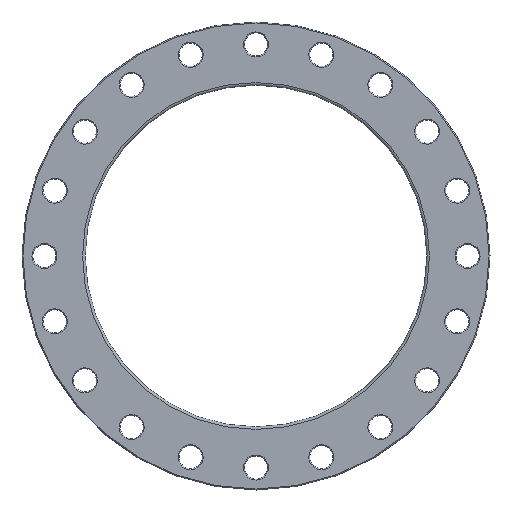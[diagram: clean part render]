
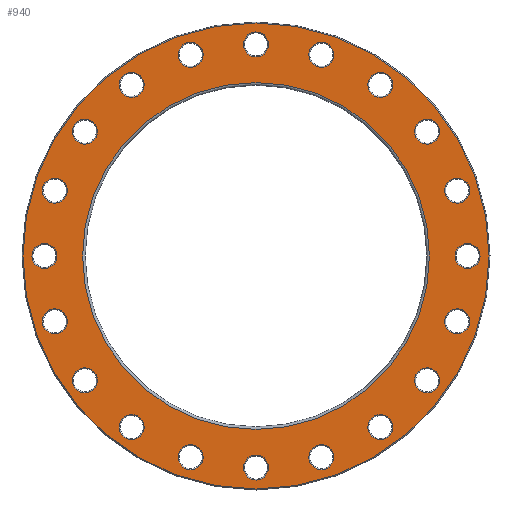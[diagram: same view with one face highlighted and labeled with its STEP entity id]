
A CAD part, front view. The second image highlights one B-rep face of the part: STEP entity #940.
In plain terms, the highlighted planar face has unit normal (0, -1, 0).
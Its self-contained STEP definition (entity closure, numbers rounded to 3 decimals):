
#23=PLANE('',#1104);
#206=ORIENTED_EDGE('',*,*,#325,.T.);
#207=ORIENTED_EDGE('',*,*,#326,.T.);
#208=ORIENTED_EDGE('',*,*,#244,.T.);
#209=ORIENTED_EDGE('',*,*,#248,.T.);
#210=ORIENTED_EDGE('',*,*,#252,.T.);
#211=ORIENTED_EDGE('',*,*,#256,.T.);
#212=ORIENTED_EDGE('',*,*,#260,.T.);
#213=ORIENTED_EDGE('',*,*,#264,.T.);
#214=ORIENTED_EDGE('',*,*,#268,.T.);
#215=ORIENTED_EDGE('',*,*,#272,.T.);
#216=ORIENTED_EDGE('',*,*,#276,.T.);
#217=ORIENTED_EDGE('',*,*,#280,.T.);
#218=ORIENTED_EDGE('',*,*,#284,.T.);
#219=ORIENTED_EDGE('',*,*,#288,.T.);
#220=ORIENTED_EDGE('',*,*,#292,.T.);
#221=ORIENTED_EDGE('',*,*,#296,.T.);
#222=ORIENTED_EDGE('',*,*,#300,.T.);
#223=ORIENTED_EDGE('',*,*,#304,.T.);
#224=ORIENTED_EDGE('',*,*,#308,.T.);
#225=ORIENTED_EDGE('',*,*,#312,.T.);
#226=ORIENTED_EDGE('',*,*,#316,.T.);
#227=ORIENTED_EDGE('',*,*,#327,.T.);
#244=EDGE_CURVE('',#332,#332,#420,.T.);
#248=EDGE_CURVE('',#336,#336,#424,.T.);
#252=EDGE_CURVE('',#340,#340,#428,.T.);
#256=EDGE_CURVE('',#344,#344,#432,.T.);
#260=EDGE_CURVE('',#348,#348,#436,.T.);
#264=EDGE_CURVE('',#352,#352,#440,.T.);
#268=EDGE_CURVE('',#356,#356,#444,.T.);
#272=EDGE_CURVE('',#360,#360,#448,.T.);
#276=EDGE_CURVE('',#364,#364,#452,.T.);
#280=EDGE_CURVE('',#368,#368,#456,.T.);
#284=EDGE_CURVE('',#372,#372,#460,.T.);
#288=EDGE_CURVE('',#376,#376,#464,.T.);
#292=EDGE_CURVE('',#380,#380,#468,.T.);
#296=EDGE_CURVE('',#384,#384,#472,.T.);
#300=EDGE_CURVE('',#388,#388,#476,.T.);
#304=EDGE_CURVE('',#392,#392,#480,.T.);
#308=EDGE_CURVE('',#396,#396,#484,.T.);
#312=EDGE_CURVE('',#400,#400,#488,.T.);
#316=EDGE_CURVE('',#404,#404,#492,.T.);
#325=EDGE_CURVE('',#413,#413,#501,.F.);
#326=EDGE_CURVE('',#414,#414,#502,.T.);
#327=EDGE_CURVE('',#415,#415,#503,.T.);
#332=VERTEX_POINT('',#1439);
#336=VERTEX_POINT('',#1450);
#340=VERTEX_POINT('',#1461);
#344=VERTEX_POINT('',#1472);
#348=VERTEX_POINT('',#1483);
#352=VERTEX_POINT('',#1494);
#356=VERTEX_POINT('',#1505);
#360=VERTEX_POINT('',#1516);
#364=VERTEX_POINT('',#1527);
#368=VERTEX_POINT('',#1538);
#372=VERTEX_POINT('',#1549);
#376=VERTEX_POINT('',#1560);
#380=VERTEX_POINT('',#1571);
#384=VERTEX_POINT('',#1582);
#388=VERTEX_POINT('',#1593);
#392=VERTEX_POINT('',#1604);
#396=VERTEX_POINT('',#1615);
#400=VERTEX_POINT('',#1626);
#404=VERTEX_POINT('',#1637);
#413=VERTEX_POINT('',#1660);
#414=VERTEX_POINT('',#1662);
#415=VERTEX_POINT('',#1664);
#420=CIRCLE('',#965,19.5);
#424=CIRCLE('',#972,19.5);
#428=CIRCLE('',#979,19.5);
#432=CIRCLE('',#986,19.5);
#436=CIRCLE('',#993,19.5);
#440=CIRCLE('',#1000,19.5);
#444=CIRCLE('',#1007,19.5);
#448=CIRCLE('',#1014,19.5);
#452=CIRCLE('',#1021,19.5);
#456=CIRCLE('',#1028,19.5);
#460=CIRCLE('',#1035,19.5);
#464=CIRCLE('',#1042,19.5);
#468=CIRCLE('',#1049,19.5);
#472=CIRCLE('',#1056,19.5);
#476=CIRCLE('',#1063,19.5);
#480=CIRCLE('',#1070,19.5);
#484=CIRCLE('',#1077,19.5);
#488=CIRCLE('',#1084,19.5);
#492=CIRCLE('',#1091,19.5);
#501=CIRCLE('',#1105,363.5);
#502=CIRCLE('',#1106,270.5);
#503=CIRCLE('',#1107,19.5);
#646=EDGE_LOOP('',(#206));
#647=EDGE_LOOP('',(#207));
#648=EDGE_LOOP('',(#208));
#649=EDGE_LOOP('',(#209));
#650=EDGE_LOOP('',(#210));
#651=EDGE_LOOP('',(#211));
#652=EDGE_LOOP('',(#212));
#653=EDGE_LOOP('',(#213));
#654=EDGE_LOOP('',(#214));
#655=EDGE_LOOP('',(#215));
#656=EDGE_LOOP('',(#216));
#657=EDGE_LOOP('',(#217));
#658=EDGE_LOOP('',(#218));
#659=EDGE_LOOP('',(#219));
#660=EDGE_LOOP('',(#220));
#661=EDGE_LOOP('',(#221));
#662=EDGE_LOOP('',(#222));
#663=EDGE_LOOP('',(#223));
#664=EDGE_LOOP('',(#224));
#665=EDGE_LOOP('',(#225));
#666=EDGE_LOOP('',(#226));
#667=EDGE_LOOP('',(#227));
#822=FACE_BOUND('',#646,.T.);
#823=FACE_BOUND('',#647,.T.);
#824=FACE_BOUND('',#648,.T.);
#825=FACE_BOUND('',#649,.T.);
#826=FACE_BOUND('',#650,.T.);
#827=FACE_BOUND('',#651,.T.);
#828=FACE_BOUND('',#652,.T.);
#829=FACE_BOUND('',#653,.T.);
#830=FACE_BOUND('',#654,.T.);
#831=FACE_BOUND('',#655,.T.);
#832=FACE_BOUND('',#656,.T.);
#833=FACE_BOUND('',#657,.T.);
#834=FACE_BOUND('',#658,.T.);
#835=FACE_BOUND('',#659,.T.);
#836=FACE_BOUND('',#660,.T.);
#837=FACE_BOUND('',#661,.T.);
#838=FACE_BOUND('',#662,.T.);
#839=FACE_BOUND('',#663,.T.);
#840=FACE_BOUND('',#664,.T.);
#841=FACE_BOUND('',#665,.T.);
#842=FACE_BOUND('',#666,.T.);
#843=FACE_BOUND('',#667,.T.);
#940=ADVANCED_FACE('',(#822,#823,#824,#825,#826,#827,#828,#829,#830,#831,
#832,#833,#834,#835,#836,#837,#838,#839,#840,#841,#842,#843),#23,.F.);
#965=AXIS2_PLACEMENT_3D('',#1438,#1127,#1128);
#972=AXIS2_PLACEMENT_3D('',#1449,#1141,#1142);
#979=AXIS2_PLACEMENT_3D('',#1460,#1155,#1156);
#986=AXIS2_PLACEMENT_3D('',#1471,#1169,#1170);
#993=AXIS2_PLACEMENT_3D('',#1482,#1183,#1184);
#1000=AXIS2_PLACEMENT_3D('',#1493,#1197,#1198);
#1007=AXIS2_PLACEMENT_3D('',#1504,#1211,#1212);
#1014=AXIS2_PLACEMENT_3D('',#1515,#1225,#1226);
#1021=AXIS2_PLACEMENT_3D('',#1526,#1239,#1240);
#1028=AXIS2_PLACEMENT_3D('',#1537,#1253,#1254);
#1035=AXIS2_PLACEMENT_3D('',#1548,#1267,#1268);
#1042=AXIS2_PLACEMENT_3D('',#1559,#1281,#1282);
#1049=AXIS2_PLACEMENT_3D('',#1570,#1295,#1296);
#1056=AXIS2_PLACEMENT_3D('',#1581,#1309,#1310);
#1063=AXIS2_PLACEMENT_3D('',#1592,#1323,#1324);
#1070=AXIS2_PLACEMENT_3D('',#1603,#1337,#1338);
#1077=AXIS2_PLACEMENT_3D('',#1614,#1351,#1352);
#1084=AXIS2_PLACEMENT_3D('',#1625,#1365,#1366);
#1091=AXIS2_PLACEMENT_3D('',#1636,#1379,#1380);
#1104=AXIS2_PLACEMENT_3D('',#1658,#1405,#1406);
#1105=AXIS2_PLACEMENT_3D('',#1659,#1407,#1408);
#1106=AXIS2_PLACEMENT_3D('',#1661,#1409,#1410);
#1107=AXIS2_PLACEMENT_3D('',#1663,#1411,#1412);
#1127=DIRECTION('',(0.,1.,0.));
#1128=DIRECTION('',(0.951,0.,0.309));
#1141=DIRECTION('',(0.,1.,0.));
#1142=DIRECTION('',(0.809,0.,0.588));
#1155=DIRECTION('',(0.,1.,0.));
#1156=DIRECTION('',(0.588,0.,0.809));
#1169=DIRECTION('',(0.,1.,0.));
#1170=DIRECTION('',(0.309,0.,0.951));
#1183=DIRECTION('',(0.,1.,0.));
#1184=DIRECTION('',(0.,0.,1.));
#1197=DIRECTION('',(0.,1.,0.));
#1198=DIRECTION('',(-0.309,0.,0.951));
#1211=DIRECTION('',(0.,1.,0.));
#1212=DIRECTION('',(-0.588,0.,0.809));
#1225=DIRECTION('',(0.,1.,0.));
#1226=DIRECTION('',(-0.809,0.,0.588));
#1239=DIRECTION('',(0.,1.,0.));
#1240=DIRECTION('',(-0.951,0.,0.309));
#1253=DIRECTION('',(0.,1.,0.));
#1254=DIRECTION('',(-1.,0.,0.));
#1267=DIRECTION('',(0.,1.,0.));
#1268=DIRECTION('',(-0.951,0.,-0.309));
#1281=DIRECTION('',(0.,1.,0.));
#1282=DIRECTION('',(-0.809,0.,-0.588));
#1295=DIRECTION('',(0.,1.,0.));
#1296=DIRECTION('',(-0.588,0.,-0.809));
#1309=DIRECTION('',(0.,1.,0.));
#1310=DIRECTION('',(-0.309,0.,-0.951));
#1323=DIRECTION('',(0.,1.,0.));
#1324=DIRECTION('',(0.,0.,-1.));
#1337=DIRECTION('',(0.,1.,0.));
#1338=DIRECTION('',(0.309,0.,-0.951));
#1351=DIRECTION('',(0.,1.,0.));
#1352=DIRECTION('',(0.588,0.,-0.809));
#1365=DIRECTION('',(0.,1.,0.));
#1366=DIRECTION('',(0.809,0.,-0.588));
#1379=DIRECTION('',(0.,1.,0.));
#1380=DIRECTION('',(0.951,0.,-0.309));
#1405=DIRECTION('',(0.,1.,0.));
#1406=DIRECTION('',(0.,0.,1.));
#1407=DIRECTION('',(0.,1.,0.));
#1408=DIRECTION('',(0.,0.,1.));
#1409=DIRECTION('',(0.,1.,0.));
#1410=DIRECTION('',(0.,0.,1.));
#1411=DIRECTION('',(0.,1.,0.));
#1412=DIRECTION('',(1.,0.,0.));
#1438=CARTESIAN_POINT('',(-101.976,0.,313.849));
#1439=CARTESIAN_POINT('',(-83.43,0.,319.874));
#1449=CARTESIAN_POINT('',(-193.969,0.,266.976));
#1450=CARTESIAN_POINT('',(-178.193,0.,278.437));
#1460=CARTESIAN_POINT('',(-266.976,0.,193.969));
#1461=CARTESIAN_POINT('',(-255.514,0.,209.745));
#1471=CARTESIAN_POINT('',(-313.849,0.,101.976));
#1472=CARTESIAN_POINT('',(-307.823,0.,120.521));
#1482=CARTESIAN_POINT('',(-330.,0.,0.));
#1483=CARTESIAN_POINT('',(-330.,0.,19.5));
#1493=CARTESIAN_POINT('',(-313.849,0.,-101.976));
#1494=CARTESIAN_POINT('',(-319.874,0.,-83.43));
#1504=CARTESIAN_POINT('',(-266.976,0.,-193.969));
#1505=CARTESIAN_POINT('',(-278.437,0.,-178.193));
#1515=CARTESIAN_POINT('',(-193.969,0.,-266.976));
#1516=CARTESIAN_POINT('',(-209.745,0.,-255.514));
#1526=CARTESIAN_POINT('',(-101.976,0.,-313.849));
#1527=CARTESIAN_POINT('',(-120.521,0.,-307.823));
#1537=CARTESIAN_POINT('',(0.,0.,-330.));
#1538=CARTESIAN_POINT('',(-19.5,0.,-330.));
#1548=CARTESIAN_POINT('',(101.976,0.,-313.849));
#1549=CARTESIAN_POINT('',(83.43,0.,-319.874));
#1559=CARTESIAN_POINT('',(193.969,0.,-266.976));
#1560=CARTESIAN_POINT('',(178.193,0.,-278.437));
#1570=CARTESIAN_POINT('',(266.976,0.,-193.969));
#1571=CARTESIAN_POINT('',(255.514,0.,-209.745));
#1581=CARTESIAN_POINT('',(313.849,0.,-101.976));
#1582=CARTESIAN_POINT('',(307.823,0.,-120.521));
#1592=CARTESIAN_POINT('',(330.,0.,0.));
#1593=CARTESIAN_POINT('',(330.,0.,-19.5));
#1603=CARTESIAN_POINT('',(313.849,0.,101.976));
#1604=CARTESIAN_POINT('',(319.874,0.,83.43));
#1614=CARTESIAN_POINT('',(266.976,0.,193.969));
#1615=CARTESIAN_POINT('',(278.437,0.,178.193));
#1625=CARTESIAN_POINT('',(193.969,0.,266.976));
#1626=CARTESIAN_POINT('',(209.745,0.,255.514));
#1636=CARTESIAN_POINT('',(101.976,0.,313.849));
#1637=CARTESIAN_POINT('',(120.521,0.,307.823));
#1658=CARTESIAN_POINT('',(0.,0.,0.));
#1659=CARTESIAN_POINT('',(0.,0.,0.));
#1660=CARTESIAN_POINT('',(0.,0.,363.5));
#1661=CARTESIAN_POINT('',(0.,0.,0.));
#1662=CARTESIAN_POINT('',(0.,0.,270.5));
#1663=CARTESIAN_POINT('',(0.,0.,330.));
#1664=CARTESIAN_POINT('',(19.5,0.,330.));
